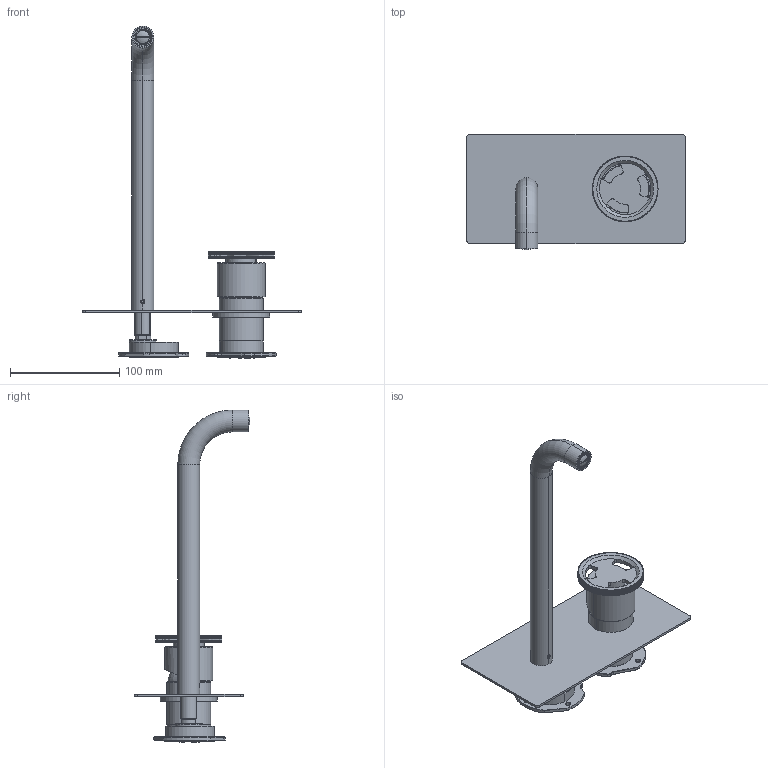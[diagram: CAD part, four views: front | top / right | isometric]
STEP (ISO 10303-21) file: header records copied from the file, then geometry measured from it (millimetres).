
FILE_DESCRIPTION (( 'STEP AP203' ), '1' );
FILE_NAME ('TIB89.STEP', '2024-02-19T15:04:11', ( '' ), ( '' ), 'SwSTEP 2.0', 'SolidWorks 2023', '' );
FILE_SCHEMA (( 'CONFIG_CONTROL_DESIGN' ));
Length unit declared in the file: millimetre
Products named in the file (28): C10.00.0015; C31.00.0006.01; C25.2701.00; C13.00.0043; C24.1955.00.1; C21.1428.00.0; C25.2056.00.0; C12.00.0057; C24.1696.00.0; C28.2098.00.0; AS1086; C47.00.0023.01; TIB89; AS559_00; C12.00.0008; C24.2096.00.0; AS861_00; C24.2109.00.0; C24.1932.00.0; AS862_00; C11.10.0061; C12.00.0051; C47.00.0015; C11.15.0005; C24.1464.00.1; C24.1837.00.0; C11.14.0003; C24.2099.00.0
Assembly tree (32 placements, depth 3):
  TIB89
    AS861_00
      C24.2096.00.0
      C24.2109.00.0
      C11.10.0061  x3
      C28.2098.00.0
      C12.00.0057
      C24.1837.00.0
      C47.00.0015
      C31.00.0006.01
      C11.15.0005
      C10.00.0015
    AS862_00
      C24.2099.00.0
      C24.1955.00.1
      C12.00.0008
      C12.00.0051  x3
      C21.1428.00.0
    C24.1932.00.0
    C13.00.0043
    AS1086
      C25.2701.00
      C25.2056.00.0
    AS559_00
      C24.1696.00.0
      C24.1464.00.1
    C11.14.0003  x2
    C47.00.0023.01
Bounding box: 200 x 105.99 x 303.6 mm (x, y, z)
Volume: 207794.3 mm3; surface area: 154922.8 mm2
Topology: 29 solids, 29 shells, 1768 faces, 4527 edges, 2852 vertices
Faces by surface type: plane 704, cylinder 616, cone 284, torus 118, bspline 46
Entity records: 56535 total; most frequent: CARTESIAN_POINT 11255, DIRECTION 9265, ORIENTED_EDGE 8662, EDGE_CURVE 4331, AXIS2_PLACEMENT_3D 3417, VERTEX_POINT 2746, VECTOR 2431, LINE 2431
